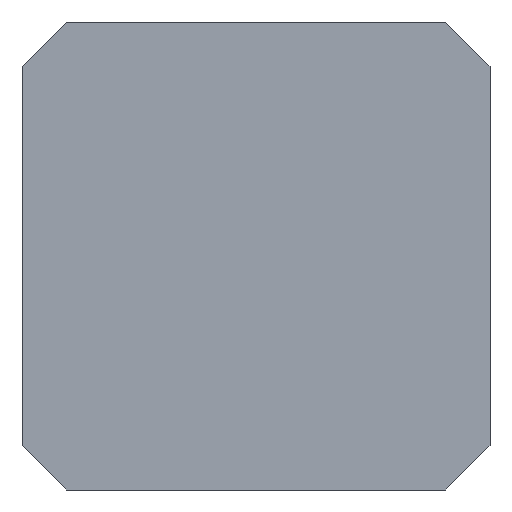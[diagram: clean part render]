
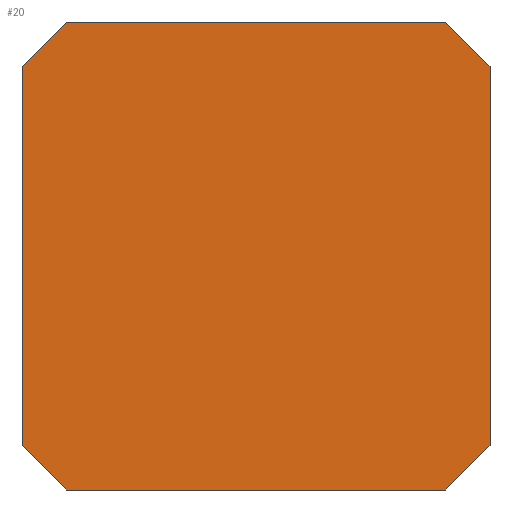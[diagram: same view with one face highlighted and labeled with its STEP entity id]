
A CAD part, front view. The second image highlights one B-rep face of the part: STEP entity #20.
In plain terms, the highlighted planar face has unit normal (0, -1, 0).
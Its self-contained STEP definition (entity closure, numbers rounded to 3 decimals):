
#2 = DIRECTION ( 'NONE',  ( 0.707, 0., 0.707 ) ) ;
#7 = CARTESIAN_POINT ( 'NONE',  ( -17.15, 0., 21.15 ) ) ;
#14 = VERTEX_POINT ( 'NONE', #331 ) ;
#16 = VERTEX_POINT ( 'NONE', #375 ) ;
#18 = PLANE ( 'NONE',  #162 ) ;
#20 = ADVANCED_FACE ( 'NONE', ( #558 ), #18, .T. ) ;
#21 = ORIENTED_EDGE ( 'NONE', *, *, #92, .T. ) ;
#25 = CARTESIAN_POINT ( 'NONE',  ( -19.15, 0., 19.15 ) ) ;
#43 = LINE ( 'NONE', #543, #52 ) ;
#52 = VECTOR ( 'NONE', #414, 1000. ) ;
#63 = VECTOR ( 'NONE', #90, 1000. ) ;
#70 = VECTOR ( 'NONE', #222, 1000. ) ;
#74 = LINE ( 'NONE', #25, #440 ) ;
#77 = LINE ( 'NONE', #311, #70 ) ;
#90 = DIRECTION ( 'NONE',  ( -1., 0., 0. ) ) ;
#92 = EDGE_CURVE ( 'NONE', #549, #276, #74, .T. ) ;
#96 = ORIENTED_EDGE ( 'NONE', *, *, #396, .F. ) ;
#116 = LINE ( 'NONE', #156, #376 ) ;
#118 = EDGE_CURVE ( 'NONE', #549, #545, #562, .T. ) ;
#123 = VECTOR ( 'NONE', #2, 1000. ) ;
#135 = EDGE_CURVE ( 'NONE', #16, #537, #116, .T. ) ;
#136 = DIRECTION ( 'NONE',  ( 0., 0., -1. ) ) ;
#138 = CARTESIAN_POINT ( 'NONE',  ( -21.15, 0., -21.15 ) ) ;
#139 = LINE ( 'NONE', #450, #480 ) ;
#141 = LINE ( 'NONE', #234, #123 ) ;
#144 = DIRECTION ( 'NONE',  ( 0., -1., 0. ) ) ;
#156 = CARTESIAN_POINT ( 'NONE',  ( -19.15, 0., -19.15 ) ) ;
#162 = AXIS2_PLACEMENT_3D ( 'NONE', #556, #144, #241 ) ;
#204 = EDGE_CURVE ( 'NONE', #16, #276, #77, .T. ) ;
#211 = DIRECTION ( 'NONE',  ( -0.707, 0., -0.707 ) ) ;
#222 = DIRECTION ( 'NONE',  ( 0., 0., 1. ) ) ;
#225 = CARTESIAN_POINT ( 'NONE',  ( -21.15, 0., 17.15 ) ) ;
#234 = CARTESIAN_POINT ( 'NONE',  ( 19.15, 0., -19.15 ) ) ;
#241 = DIRECTION ( 'NONE',  ( 0., 0., -1. ) ) ;
#255 = CARTESIAN_POINT ( 'NONE',  ( 21.15, 0., -17.15 ) ) ;
#272 = EDGE_CURVE ( 'NONE', #14, #481, #141, .T. ) ;
#276 = VERTEX_POINT ( 'NONE', #225 ) ;
#305 = VECTOR ( 'NONE', #341, 1000. ) ;
#311 = CARTESIAN_POINT ( 'NONE',  ( -21.15, 0., 21.15 ) ) ;
#316 = EDGE_CURVE ( 'NONE', #369, #545, #43, .T. ) ;
#331 = CARTESIAN_POINT ( 'NONE',  ( 17.15, 0., -21.15 ) ) ;
#341 = DIRECTION ( 'NONE',  ( 1., 0., 0. ) ) ;
#360 = ORIENTED_EDGE ( 'NONE', *, *, #552, .F. ) ;
#369 = VERTEX_POINT ( 'NONE', #500 ) ;
#375 = CARTESIAN_POINT ( 'NONE',  ( -21.15, 0., -17.15 ) ) ;
#376 = VECTOR ( 'NONE', #429, 1000. ) ;
#395 = ORIENTED_EDGE ( 'NONE', *, *, #204, .F. ) ;
#396 = EDGE_CURVE ( 'NONE', #14, #537, #458, .T. ) ;
#409 = ORIENTED_EDGE ( 'NONE', *, *, #272, .T. ) ;
#411 = CARTESIAN_POINT ( 'NONE',  ( -17.15, 0., -21.15 ) ) ;
#412 = ORIENTED_EDGE ( 'NONE', *, *, #316, .T. ) ;
#414 = DIRECTION ( 'NONE',  ( -0.707, 0., 0.707 ) ) ;
#429 = DIRECTION ( 'NONE',  ( 0.707, 0., -0.707 ) ) ;
#440 = VECTOR ( 'NONE', #211, 1000. ) ;
#450 = CARTESIAN_POINT ( 'NONE',  ( 21.15, 0., 21.15 ) ) ;
#453 = CARTESIAN_POINT ( 'NONE',  ( 17.15, 0., 21.15 ) ) ;
#458 = LINE ( 'NONE', #138, #63 ) ;
#463 = ORIENTED_EDGE ( 'NONE', *, *, #135, .T. ) ;
#480 = VECTOR ( 'NONE', #136, 1000. ) ;
#481 = VERTEX_POINT ( 'NONE', #255 ) ;
#487 = EDGE_LOOP ( 'NONE', ( #360, #412, #575, #21, #395, #463, #96, #409 ) ) ;
#500 = CARTESIAN_POINT ( 'NONE',  ( 21.15, 0., 17.15 ) ) ;
#526 = CARTESIAN_POINT ( 'NONE',  ( -21.15, 0., 21.15 ) ) ;
#537 = VERTEX_POINT ( 'NONE', #411 ) ;
#543 = CARTESIAN_POINT ( 'NONE',  ( 19.15, 0., 19.15 ) ) ;
#545 = VERTEX_POINT ( 'NONE', #453 ) ;
#549 = VERTEX_POINT ( 'NONE', #7 ) ;
#552 = EDGE_CURVE ( 'NONE', #369, #481, #139, .T. ) ;
#556 = CARTESIAN_POINT ( 'NONE',  ( 0., 0., 0. ) ) ;
#558 = FACE_OUTER_BOUND ( 'NONE', #487, .T. ) ;
#562 = LINE ( 'NONE', #526, #305 ) ;
#575 = ORIENTED_EDGE ( 'NONE', *, *, #118, .F. ) ;
